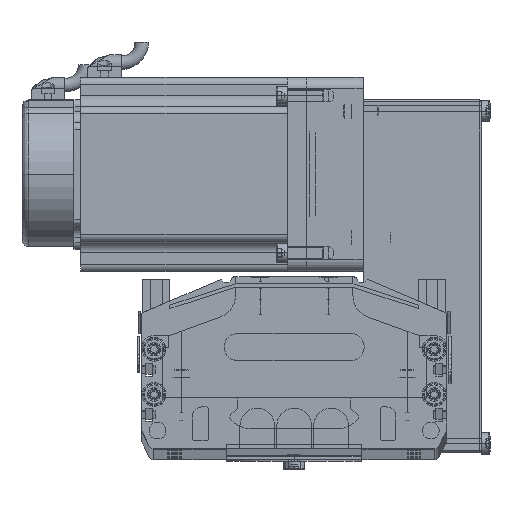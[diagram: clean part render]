
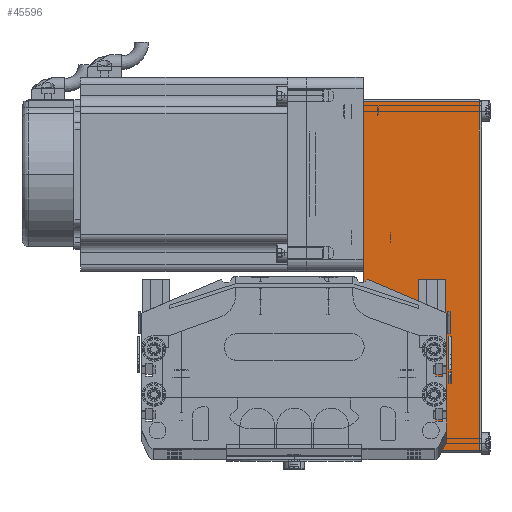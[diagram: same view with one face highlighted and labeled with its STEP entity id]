
A CAD part, top view. The second image highlights one B-rep face of the part: STEP entity #45596.
In plain terms, the highlighted planar face has unit normal (0, 0, 1) as drawn and (0, -1, 0) by its records, which use the part's own axes.
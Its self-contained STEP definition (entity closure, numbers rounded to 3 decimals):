
#3765 = DIRECTION ( 'NONE',  ( 0., 0., -1. ) ) ;
#3767 = LINE ( 'NONE', #3774, #3772 ) ;
#3772 = VECTOR ( 'NONE', #3765, 1000. ) ;
#3774 = CARTESIAN_POINT ( 'NONE',  ( -123.2, -40., 52.5 ) ) ;
#3885 = DIRECTION ( 'NONE',  ( 1., 0., 0. ) ) ;
#3886 = CARTESIAN_POINT ( 'NONE',  ( 32., -40., 0. ) ) ;
#3930 = VECTOR ( 'NONE', #3885, 1000. ) ;
#3937 = LINE ( 'NONE', #3886, #3930 ) ;
#4038 = CARTESIAN_POINT ( 'NONE',  ( -123.2, -40., 0. ) ) ;
#4115 = CARTESIAN_POINT ( 'NONE',  ( 31., -40., 0. ) ) ;
#4137 = CARTESIAN_POINT ( 'NONE',  ( -123.2, -40., 51.5 ) ) ;
#4180 = CARTESIAN_POINT ( 'NONE',  ( 31., -40., 51.5 ) ) ;
#4392 = PLANE ( 'NONE',  #4431 ) ;
#4393 = DIRECTION ( 'NONE',  ( 0., 0., 1. ) ) ;
#4394 = VECTOR ( 'NONE', #4393, 1000. ) ;
#4426 = DIRECTION ( 'NONE',  ( 0., 1., 0. ) ) ;
#4427 = CARTESIAN_POINT ( 'NONE',  ( 32., -40., 52.5 ) ) ;
#4429 = CARTESIAN_POINT ( 'NONE',  ( 31., -40., 52.5 ) ) ;
#4430 = LINE ( 'NONE', #4429, #4394 ) ;
#4431 = AXIS2_PLACEMENT_3D ( 'NONE', #4427, #4426, #4584 ) ;
#4460 = FACE_OUTER_BOUND ( 'NONE', #44935, .T. ) ;
#4584 = DIRECTION ( 'NONE',  ( -1., 0., 0. ) ) ;
#4824 = DIRECTION ( 'NONE',  ( -1., 0., 0. ) ) ;
#4825 = VECTOR ( 'NONE', #4824, 1000. ) ;
#4826 = CARTESIAN_POINT ( 'NONE',  ( 32., -40., 51.5 ) ) ;
#4939 = LINE ( 'NONE', #4826, #4825 ) ;
#44617 = ORIENTED_EDGE ( 'NONE', *, *, #45418, .T. ) ;
#44802 = EDGE_CURVE ( 'NONE', #44857, #45000, #3937, .T. ) ;
#44806 = ORIENTED_EDGE ( 'NONE', *, *, #44802, .T. ) ;
#44857 = VERTEX_POINT ( 'NONE', #4038 ) ;
#44915 = VERTEX_POINT ( 'NONE', #4137 ) ;
#44918 = VERTEX_POINT ( 'NONE', #4180 ) ;
#44935 = EDGE_LOOP ( 'NONE', ( #44806, #45638, #45572, #44617 ) ) ;
#45000 = VERTEX_POINT ( 'NONE', #4115 ) ;
#45418 = EDGE_CURVE ( 'NONE', #44915, #44857, #3767, .T. ) ;
#45572 = ORIENTED_EDGE ( 'NONE', *, *, #45639, .T. ) ;
#45596 = ADVANCED_FACE ( 'NONE', ( #4460 ), #4392, .F. ) ;
#45598 = EDGE_CURVE ( 'NONE', #45000, #44918, #4430, .T. ) ;
#45638 = ORIENTED_EDGE ( 'NONE', *, *, #45598, .T. ) ;
#45639 = EDGE_CURVE ( 'NONE', #44918, #44915, #4939, .T. ) ;
